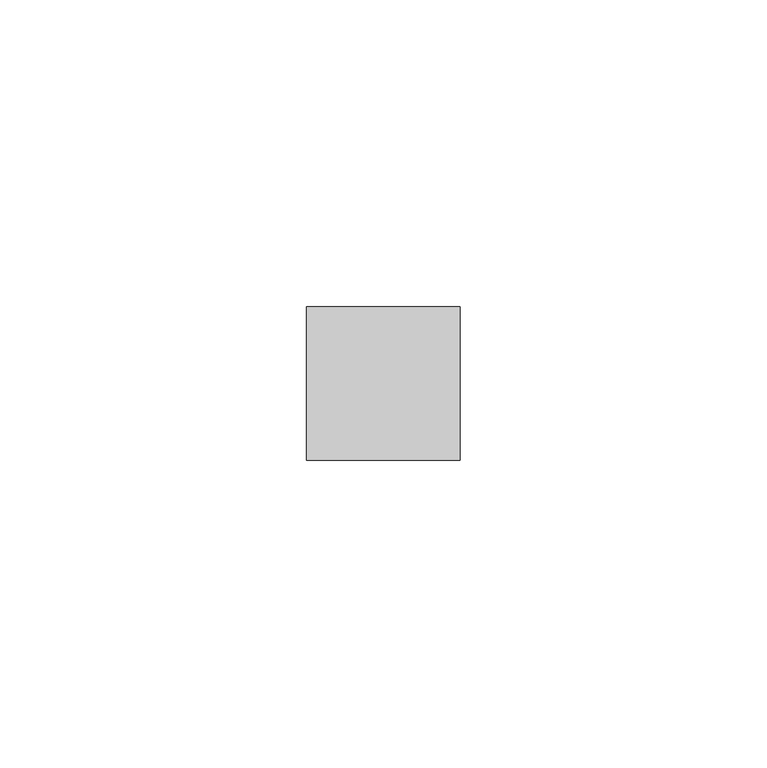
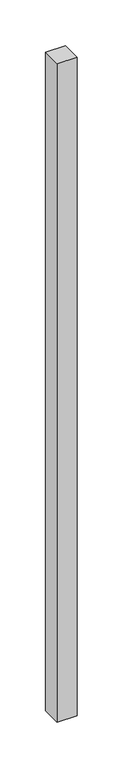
"""IFC4 building model written with IfcOpenShell, lengths in millimetres: member geometry, Obdélníková příčel : VERTI AERO."""

from ifc_helpers import new_model, si_unit, frame, origin, place, context, project, spatial, polyline, outline, extrude, source, transform, mapped, element, save


def member_b27ab08c(model_context):
    return source(origin(), model_context, "Body", "SweptSolid", [
        extrude(outline(polyline([(-25.0, 12.5), (0.0, 12.5), (0.0, -12.5), (-25.0, -12.5), (-25.0, 12.5)])), frame((0.0, 0.0, -875.0), z_axis=(0.0, 0.0, 1.0), x_axis=(1.0, 0.0, 0.0)), (0.0, 0.0, 1.0), 875.0),
    ])


if __name__ == "__main__":
    model = new_model("IFC4")
    model_context = context("Model", 3, world=origin())
    ifc_project = project(units=[si_unit("LENGTHUNIT", "METRE", prefix="MILLI")], contexts=[model_context])
    site = spatial("IfcSite", under=ifc_project)
    building = spatial("IfcBuilding", under=site)
    placement = place(None, origin())
    member_shape = member_b27ab08c(model_context)
    element("IfcMember", 1, ObjectType="Obdélníková příčel : VERTI AERO", at=placement, inside=building, context=model_context, shape_type="MappedRepresentation", body=[
        mapped(member_shape, transform((0.0, 0.0, 0.0), x_axis=(1.0, 0.0, 0.0), y_axis=(0.0, 1.0, 0.0), z_axis=(0.0, 0.0, 1.0))),
    ])
    save(model, "model.ifc")
